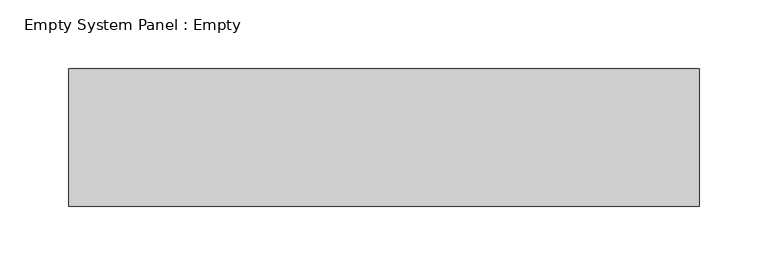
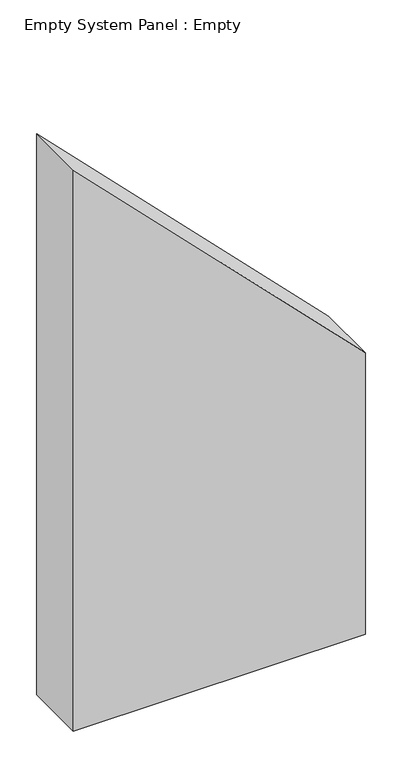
"""IFC4 building model written with IfcOpenShell, lengths in millimetres: plate geometry, Empty System Panel : Empty."""

from ifc_helpers import new_model, si_unit, frame, origin, place, context, project, spatial, polyline, outline, extrude, source, transform, mapped, element, save


def empty_system_panel_empty_22570948(model_context):
    return source(origin(), model_context, "Body", "SweptSolid", [
        extrude(outline(polyline([(0.0, -229.6046705), (0.0, 229.6046705), (468.1321037, 229.6046705), (932.4788127, -229.6046705), (0.0, -229.6046705)])), frame((0.0, -50.0, 0.0), z_axis=(0.0, 1.0, 0.0), x_axis=(0.0, 0.0, 1.0)), (0.0, 0.0, 1.0), 100.0),
    ])


if __name__ == "__main__":
    model = new_model("IFC4")
    model_context = context("Model", 3, world=origin())
    ifc_project = project(units=[si_unit("LENGTHUNIT", "METRE", prefix="MILLI")], contexts=[model_context])
    site = spatial("IfcSite", under=ifc_project)
    building = spatial("IfcBuilding", under=site)
    placement = place(None, origin())
    empty_system_panel_empty_shape = empty_system_panel_empty_22570948(model_context)
    element("IfcPlate", 1, ObjectType="Empty System Panel : Empty", at=placement, inside=building, context=model_context, shape_type="MappedRepresentation", body=[
        mapped(empty_system_panel_empty_shape, transform((0.0, 0.0, 0.0), x_axis=(1.0, 0.0, 0.0), y_axis=(0.0, 1.0, 0.0), z_axis=(0.0, 0.0, 1.0))),
    ])
    save(model, "model.ifc")
